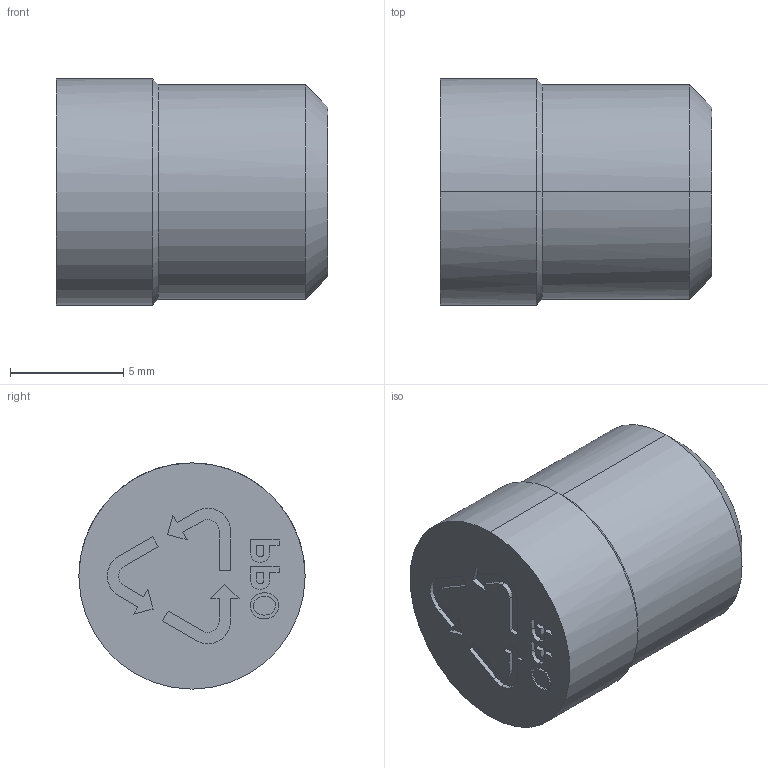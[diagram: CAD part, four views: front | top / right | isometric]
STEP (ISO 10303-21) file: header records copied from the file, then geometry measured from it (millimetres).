
FILE_DESCRIPTION(('CATIA V5 STEP Exchange'),'2;1');
FILE_NAME('C:\Users\Utente\Desktop\IO LAVORO\3D X SITO CF\X SITO\PLASTICA\CFMR\MPP010.stp','2021-03-26T13:43:36+00:00',('none'),('none'),'CATIA Version 5 Release 20 GA (IN-10)','CATIA V5 STEP AP203','none');
FILE_SCHEMA(('CONFIG_CONTROL_DESIGN'));
Length unit declared in the file: millimetre
Products named in the file (1): MPP010
Bounding box: 12 x 10 x 10 mm (x, y, z)
Volume: 811.3 mm3; surface area: 574.8 mm2
Topology: 1 solids, 1 shells, 139 faces, 390 edges, 261 vertices
Faces by surface type: plane 107, cylinder 24, cone 8
Entity records: 4494 total; most frequent: CARTESIAN_POINT 891, ORIENTED_EDGE 776, DIRECTION 652, EDGE_CURVE 388, VECTOR 320, LINE 320, VERTEX_POINT 261, AXIS2_PLACEMENT_3D 194
